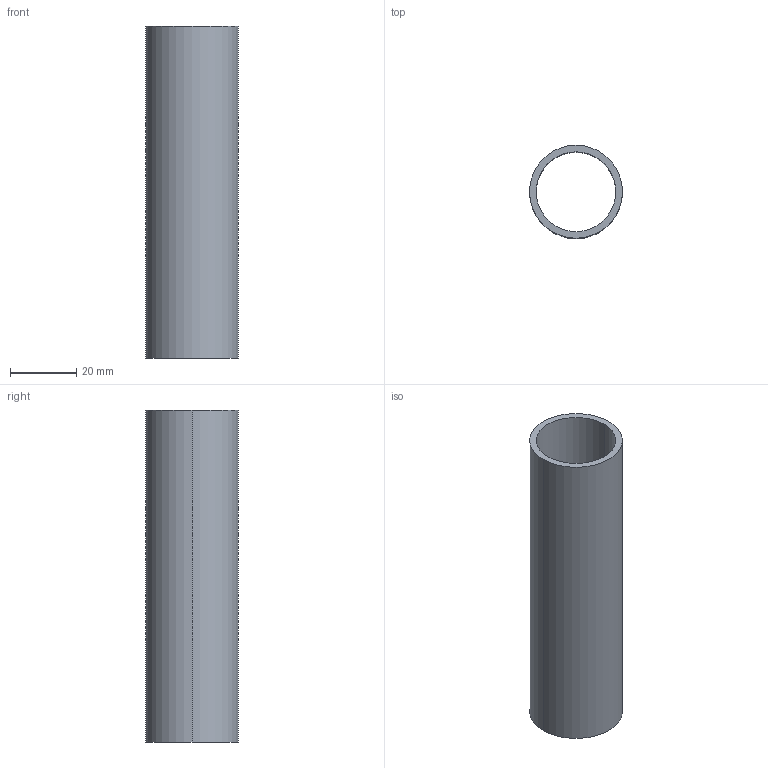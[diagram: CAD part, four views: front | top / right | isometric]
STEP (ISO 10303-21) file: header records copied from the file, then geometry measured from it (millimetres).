
FILE_DESCRIPTION (( 'STEP AP203' ), '1' );
FILE_NAME ('015.028.002.STEP', '2016-10-24T07:21:00', ( '' ), ( '' ), 'SwSTEP 2.0', 'SolidWorks 2016', '' );
FILE_SCHEMA (( 'CONFIG_CONTROL_DESIGN' ));
Length unit declared in the file: millimetre
Products named in the file (2): TUBO INTERNO; 015.028.002
Assembly tree (1 placements, depth 2):
  015.028.002
    TUBO INTERNO
Bounding box: 28 x 28 x 100 mm (x, y, z)
Volume: 16336.3 mm3; surface area: 16663 mm2
Topology: 1 solids, 1 shells, 6 faces, 12 edges, 8 vertices
Faces by surface type: cylinder 4, plane 2
Entity records: 364 total; most frequent: DIRECTION 40, CARTESIAN_POINT 30, ORIENTED_EDGE 24, AXIS2_PLACEMENT_3D 18, PERSON_AND_ORGANIZATION 17, EDGE_CURVE 12, CALENDAR_DATE 12, DATE_AND_TIME 12
